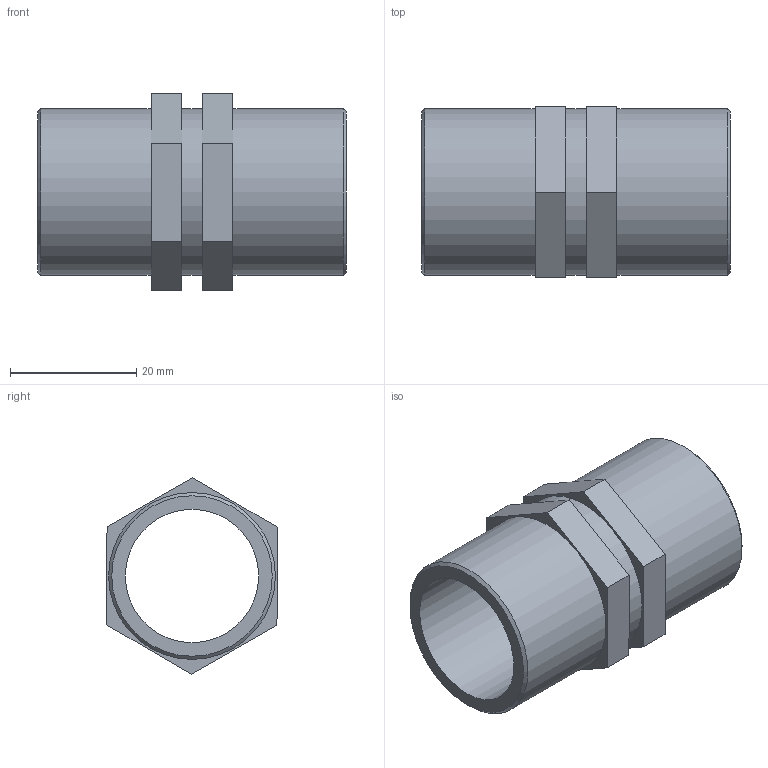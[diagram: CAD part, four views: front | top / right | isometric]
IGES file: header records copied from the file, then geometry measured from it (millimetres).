
Global section: file name: 050607007_0506070070A.ipt; native system: Autodesk Inventor 2015; preprocessor: unknown; author: KIM; date: 20170618.093242; units: millimetre
Bounding box: 49 x 27.05 x 31.18 mm (x, y, z)
Volume: 10472.2 mm3; surface area: 8105 mm2
Topology: 1 solids, 1 shells, 24 faces, 54 edges, 36 vertices
Faces by surface type: plane 18, cylinder 3, cone 2, revolution 1
Full cylindrical faces by diameter (mm): 26.441 x3
